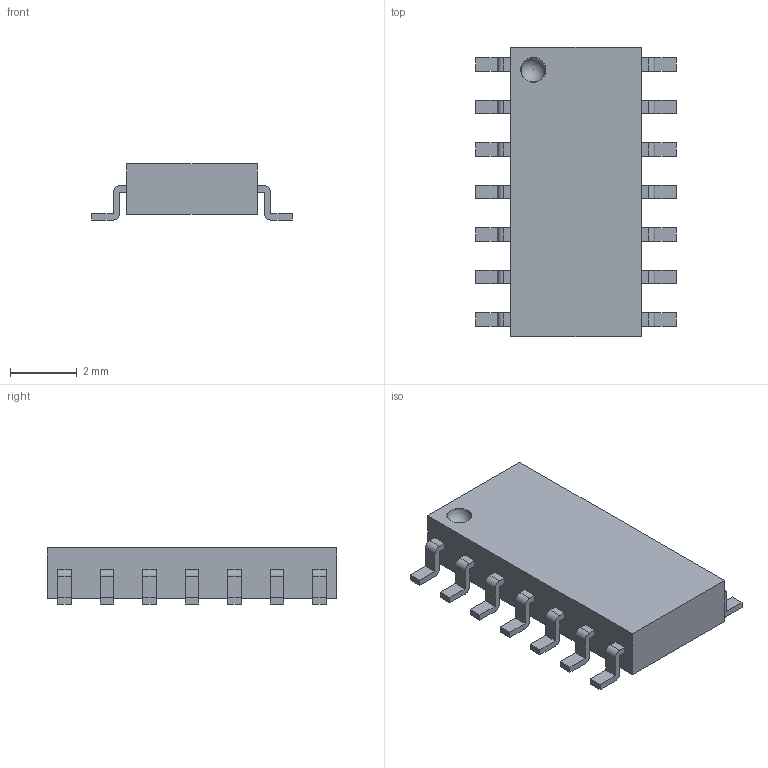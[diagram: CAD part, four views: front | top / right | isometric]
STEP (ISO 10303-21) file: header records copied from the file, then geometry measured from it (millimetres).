
FILE_DESCRIPTION( ( '' ), ' ' );
FILE_NAME( '/vol/tmp/translate-7985737119546707920/58bf15fe0e77410f785c5417.step', '2017-03-07T20:20:14', ( '' ), ( '' ), ' ', ' ', ' ' );
FILE_SCHEMA( ( 'AUTOMOTIVE_DESIGN { 1 0 10303 214 1 1 1 1 }' ) );
Length unit declared in the file: metre
Products named in the file (16): Open CASCADE STEP translator 6.8 17; Open CASCADE STEP translator 6.8 18; Open CASCADE STEP translator 6.8 19; Open CASCADE STEP translator 6.8 20; Open CASCADE STEP translator 6.8 21; Open CASCADE STEP translator 6.8 22; Open CASCADE STEP translator 6.8 23; Open CASCADE STEP translator 6.8 24; Open CASCADE STEP translator 6.8 25; Open CASCADE STEP translator 6.8 26; Open CASCADE STEP translator 6.8 27; Open CASCADE STEP translator 6.8 28; Open CASCADE STEP translator 6.8 29; Open CASCADE STEP translator 6.8 30; Part 15; Part 16
Bounding box: 6 x 8.65 x 1.68 mm (x, y, z)
Volume: 52.5 mm3; surface area: 139.7 mm2
Topology: 16 solids, 16 shells, 178 faces, 441 edges, 294 vertices
Faces by surface type: plane 147, cylinder 28, sphere 3
Entity records: 8884 total; most frequent: CARTESIAN_POINT 923, DIRECTION 882, ORIENTED_EDGE 870, STYLED_ITEM 598, PRESENTATION_STYLE_ASSIGNMENT 598, COLOUR_RGB 598, EDGE_CURVE 435, CURVE_STYLE 420
